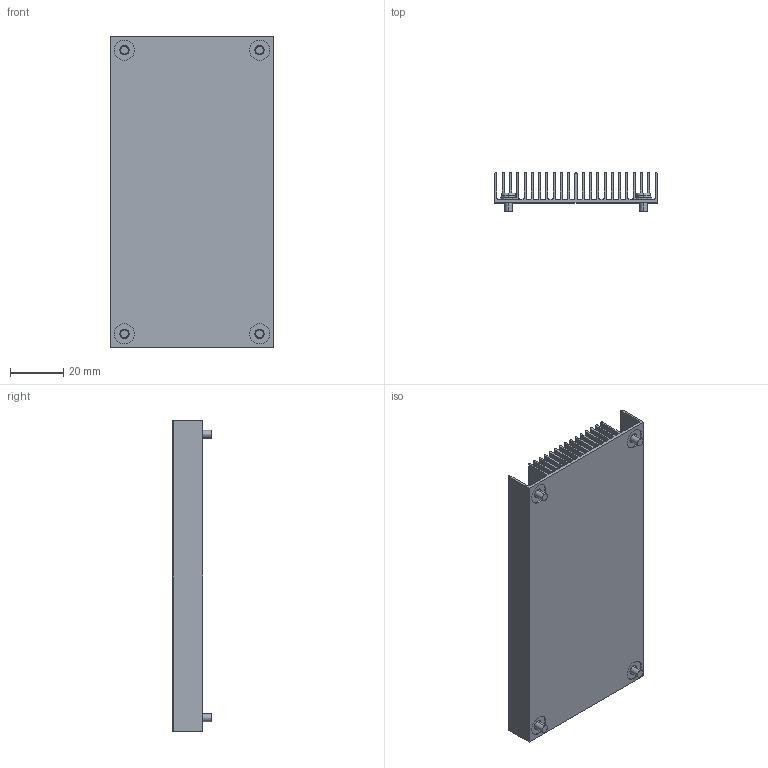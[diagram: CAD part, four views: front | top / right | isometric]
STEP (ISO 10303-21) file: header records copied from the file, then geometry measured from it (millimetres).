
FILE_DESCRIPTION (( 'STEP AP214' ), '1' );
FILE_NAME ('HS1592EBK05.STEP', '2023-03-03T19:11:13', ( '' ), ( '' ), 'SwSTEP 2.0', 'SolidWorks 2020', '' );
FILE_SCHEMA (( 'AUTOMOTIVE_DESIGN' ));
Length unit declared in the file: millimetre
Products named in the file (1): HS1592EBK05
Bounding box: 60.96 x 14.65 x 116.84 mm (x, y, z)
Volume: 29167.5 mm3; surface area: 66437 mm2
Topology: 5 solids, 5 shells, 574 faces, 1518 edges, 966 vertices
Faces by surface type: plane 401, cylinder 165, torus 8
Entity records: 24237 total; most frequent: CARTESIAN_POINT 3354, DIRECTION 3037, ORIENTED_EDGE 3036, EDGE_CURVE 1518, LINE 1099, VECTOR 1099, AXIS2_PLACEMENT_3D 969, VERTEX_POINT 966
